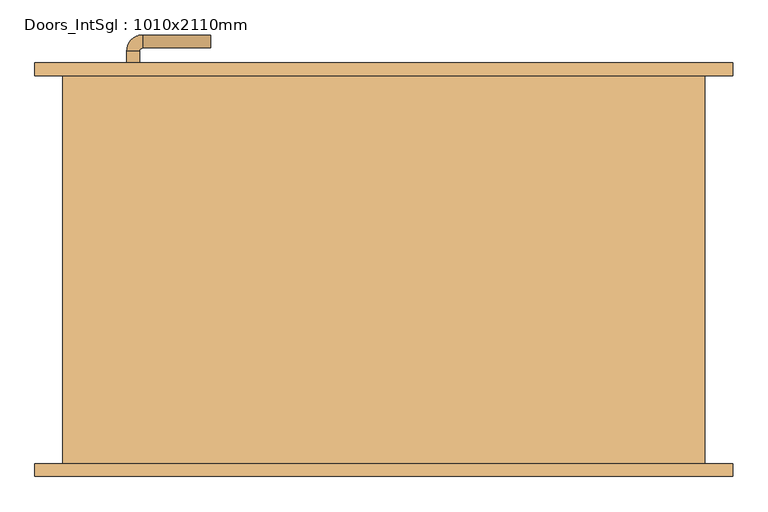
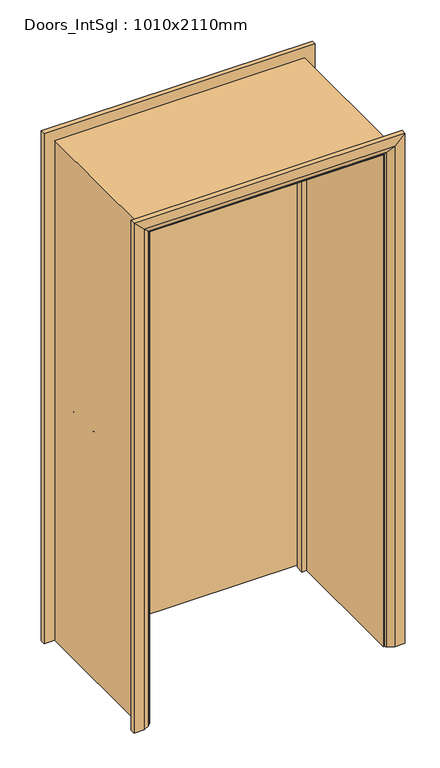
"""IFC4 building model written with IfcOpenShell, lengths in millimetres: door geometry, Doors_IntSgl : 1010x2110mm."""

from ifc_helpers import new_model, si_unit, point, frame, frame_2d, origin, place, context, project, spatial, polyline, circle_curve, ellipse_curve, trimmed, segment, composite_curve, outline, extrude, faceted_brep, source, transform, mapped, element, save
from ifc_brep_helpers import plane_surface, cylinder_surface, revolved_surface, advanced_brep


def doors_intsgl_1010x2110mm_08e46b23(model_context):
    return source(origin(), model_context, "Body", "SolidModel", [
        advanced_brep(
        [(-398.0, 254.0, 900.0), (-378.0, 254.0, 900.0), (-378.0, 224.0, 900.0), (-398.0, 224.0, 900.0), (-373.0, 219.0, 900.0), (-373.0, 199.0, 900.0), (-268.0, 199.0, 900.0), (-268.0, 219.0, 900.0)],
        [
            (0, 1, circle_curve(frame((-388.0, 254.0, 900.0), z_axis=(0.0, 1.0, 0.0), x_axis=(1.0, 0.0, 0.0)), 10.0)),
            (1, 0, circle_curve(frame((-388.0, 254.0, 900.0), z_axis=(0.0, 1.0, 0.0), x_axis=(1.0, 0.0, 0.0)), 10.0)),
            (1, 2),
            (2, 3, circle_curve(frame((-388.0, 224.0, 900.0), z_axis=(0.0, 1.0, 0.0), x_axis=(1.0, 0.0, 0.0)), 10.0)),
            (3, 0),
            (3, 2, circle_curve(frame((-388.0, 224.0, 900.0), z_axis=(0.0, 1.0, 0.0), x_axis=(1.0, 0.0, 0.0)), 10.0)),
            (4, 5, circle_curve(frame((-373.0, 209.0, 900.0), z_axis=(-1.0, 0.0, 0.0), x_axis=(0.0, 1.0, 0.0)), 10.0)),
            (5, 3, circle_curve(frame((-373.0, 224.0, 900.0), z_axis=(0.0, 0.0, -1.0), x_axis=(-1.0, 0.0, 0.0)), 25.0)),
            (2, 4, circle_curve(frame((-373.0, 224.0, 900.0), z_axis=(0.0, 0.0, 1.0), x_axis=(-1.0, 0.0, 0.0)), 5.0)),
            (5, 4, circle_curve(frame((-373.0, 209.0, 900.0), z_axis=(-1.0, 0.0, 0.0), x_axis=(0.0, 1.0, 0.0)), 10.0)),
            (6, 7, circle_curve(frame((-268.0, 209.0, 900.0), z_axis=(1.0, 0.0, 0.0), x_axis=(0.0, 1.0, 0.0)), 10.0)),
            (7, 6, circle_curve(frame((-268.0, 209.0, 900.0), z_axis=(1.0, 0.0, 0.0), x_axis=(0.0, 1.0, 0.0)), 10.0)),
            (4, 7),
            (6, 5),
        ],
        [
            plane_surface(frame((-388.0, 254.0, 900.0), z_axis=(0.0, 1.0, 0.0), x_axis=(0.0, 0.0, 1.0))),
            cylinder_surface(frame((-388.0, 254.0, 900.0), z_axis=(0.0, 1.0, 0.0), x_axis=(1.0, 0.0, 0.0)), 10.0),
            revolved_surface(trimmed(ellipse_curve(frame((-388.0, 224.0, 900.0), z_axis=(0.0, -1.0, 0.0), x_axis=(1.0, 0.0, 0.0)), 10.0, 10.0), [point((-398.0, 224.0, 900.0))], [point((-378.0, 224.0, 900.0))], True, "CARTESIAN"), (-373.0, 224.0, 900.0), (0.0, 0.0, -1.0)),
            revolved_surface(trimmed(ellipse_curve(frame((-388.0, 224.0, 900.0), z_axis=(0.0, -1.0, 0.0), x_axis=(1.0, 0.0, 0.0)), 10.0, 10.0), [point((-378.0, 224.0, 900.0))], [point((-398.0, 224.0, 900.0))], True, "CARTESIAN"), (-373.0, 224.0, 900.0), (0.0, 0.0, -1.0)),
            plane_surface(frame((-268.0, 209.0, 900.0), z_axis=(1.0, 0.0, 0.0), x_axis=(0.0, 0.0, 1.0))),
            cylinder_surface(frame((-373.0, 209.0, 900.0), z_axis=(-1.0, 0.0, 0.0), x_axis=(0.0, 1.0, 0.0)), 10.0),
        ],
        [
            (0, [[1, 2]]),
            (1, [[3, 4, 5, -2]]),
            (1, [[-5, 6, -3, -1]]),
            (2, [[7, 8, -4, 9]]),
            (3, [[10, -9, -6, -8]]),
            (4, [[11, 12]]),
            (5, [[13, -11, 14, -7]]),
            (5, [[-14, -12, -13, -10]]),
        ],
    ),
        extrude(outline(composite_curve([segment(trimmed(circle_curve(frame_2d((900.0, -390.5)), 30.0), [point((900.0, -420.5))], [point((900.0, -360.5))], False, "CARTESIAN"), True, "CONTINUOUS"), segment(trimmed(circle_curve(frame_2d((900.0, -390.5)), 30.0), [point((900.0, -360.5))], [point((900.0, -420.5))], False, "CARTESIAN"), True, "CONTINUOUS")], self_intersect=False)), frame((0.0, 254.0, 0.0), z_axis=(0.0, 1.0, 0.0), x_axis=(0.0, 0.0, 1.0)), (0.0, 0.0, 1.0), 8.0),
        advanced_brep(
        [(-398.0, 308.0, 900.0), (-378.0, 308.0, 900.0), (-398.0, 338.0, 900.0), (-378.0, 338.0, 900.0), (-373.0, 343.0, 900.0), (-373.0, 363.0, 900.0), (-268.0, 363.0, 900.0), (-268.0, 343.0, 900.0)],
        [
            (0, 1, circle_curve(frame((-388.0, 308.0, 900.0), z_axis=(0.0, -1.0, 0.0), x_axis=(1.0, 0.0, 0.0)), 10.0)),
            (1, 0, circle_curve(frame((-388.0, 308.0, 900.0), z_axis=(0.0, -1.0, 0.0), x_axis=(1.0, 0.0, 0.0)), 10.0)),
            (0, 2),
            (2, 3, circle_curve(frame((-388.0, 338.0, 900.0), z_axis=(0.0, -1.0, 0.0), x_axis=(1.0, 0.0, 0.0)), 10.0)),
            (3, 1),
            (3, 2, circle_curve(frame((-388.0, 338.0, 900.0), z_axis=(0.0, -1.0, 0.0), x_axis=(1.0, 0.0, 0.0)), 10.0)),
            (4, 3, circle_curve(frame((-373.0, 338.0, 900.0), z_axis=(0.0, 0.0, 1.0), x_axis=(-1.0, 0.0, 0.0)), 5.0)),
            (2, 5, circle_curve(frame((-373.0, 338.0, 900.0), z_axis=(0.0, 0.0, -1.0), x_axis=(-1.0, 0.0, 0.0)), 25.0)),
            (5, 4, circle_curve(frame((-373.0, 353.0, 900.0), z_axis=(-1.0, 0.0, 0.0), x_axis=(0.0, -1.0, 0.0)), 10.0)),
            (4, 5, circle_curve(frame((-373.0, 353.0, 900.0), z_axis=(-1.0, 0.0, 0.0), x_axis=(0.0, -1.0, 0.0)), 10.0)),
            (6, 7, circle_curve(frame((-268.0, 353.0, 900.0), z_axis=(1.0, 0.0, 0.0), x_axis=(0.0, -1.0, 0.0)), 10.0)),
            (7, 6, circle_curve(frame((-268.0, 353.0, 900.0), z_axis=(1.0, 0.0, 0.0), x_axis=(0.0, -1.0, 0.0)), 10.0)),
            (5, 6),
            (7, 4),
        ],
        [
            plane_surface(frame((-388.0, 308.0, 900.0), z_axis=(0.0, -1.0, 0.0), x_axis=(0.0, 0.0, 1.0))),
            cylinder_surface(frame((-388.0, 308.0, 900.0), z_axis=(0.0, -1.0, 0.0), x_axis=(1.0, 0.0, 0.0)), 10.0),
            revolved_surface(trimmed(ellipse_curve(frame((-388.0, 338.0, 900.0), z_axis=(0.0, -1.0, 0.0), x_axis=(1.0, 0.0, 0.0)), 10.0, 10.0), [point((-398.0, 338.0, 900.0))], [point((-378.0, 338.0, 900.0))], True, "CARTESIAN"), (-373.0, 338.0, 900.0), (0.0, 0.0, -1.0)),
            revolved_surface(trimmed(ellipse_curve(frame((-388.0, 338.0, 900.0), z_axis=(0.0, -1.0, 0.0), x_axis=(1.0, 0.0, 0.0)), 10.0, 10.0), [point((-378.0, 338.0, 900.0))], [point((-398.0, 338.0, 900.0))], True, "CARTESIAN"), (-373.0, 338.0, 900.0), (0.0, 0.0, -1.0)),
            plane_surface(frame((-268.0, 353.0, 900.0), z_axis=(1.0, 0.0, 0.0), x_axis=(0.0, 0.0, 1.0))),
            cylinder_surface(frame((-373.0, 353.0, 900.0), z_axis=(-1.0, 0.0, 0.0), x_axis=(0.0, -1.0, 0.0)), 10.0),
        ],
        [
            (0, [[1, 2]]),
            (1, [[-1, 3, 4, 5]]),
            (1, [[-2, -5, 6, -3]]),
            (2, [[7, -4, 8, 9]]),
            (3, [[-8, -6, -7, 10]]),
            (4, [[11, 12]]),
            (5, [[-9, 13, -12, 14]]),
            (5, [[-10, -14, -11, -13]]),
        ],
    ),
        extrude(outline(composite_curve([segment(trimmed(circle_curve(frame_2d((900.0, -390.5)), 30.0), [point((900.0, -420.5))], [point((900.0, -360.5))], False, "CARTESIAN"), True, "CONTINUOUS"), segment(trimmed(circle_curve(frame_2d((900.0, -390.5)), 30.0), [point((900.0, -360.5))], [point((900.0, -420.5))], False, "CARTESIAN"), True, "CONTINUOUS")], self_intersect=False)), frame((0.0, 300.0, 0.0), z_axis=(0.0, 1.0, 0.0), x_axis=(0.0, 0.0, 1.0)), (0.0, 0.0, 1.0), 8.0),
        extrude(outline(polyline([(463.0, 262.0), (-463.0, 262.0), (-463.0, 300.0), (463.0, 300.0), (463.0, 262.0)])), frame((0.0, 0.0, 8.0), z_axis=(0.0, 0.0, 1.0), x_axis=(1.0, 0.0, 0.0)), (0.0, 0.0, 1.0), 2060.0),
        advanced_brep(
        [(540.0, 320.0, 0.0), (540.0, 300.0, 0.0), (470.0, 300.0, 0.0), (474.0, 306.0, 0.0), (500.0, 320.0, 0.0), (540.0, 320.0, 2145.0), (540.0, 300.0, 2145.0), (-540.0, 300.0, 2145.0), (-540.0, 300.0, 0.0), (-470.0, 300.0, 0.0), (-470.0, 300.0, 2075.0), (470.0, 300.0, 2075.0), (474.0, 306.0, 2079.0), (500.0, 320.0, 2105.0), (-500.0, 320.0, 2105.0), (-500.0, 320.0, 0.0), (-540.0, 320.0, 0.0), (-540.0, 320.0, 2145.0), (-474.0, 306.0, 2079.0), (-474.0, 306.0, 0.0)],
        [
            (0, 1),
            (1, 2),
            (2, 3, circle_curve(frame((478.0, 299.0, 0.0), z_axis=(0.0, 0.0, -1.0), x_axis=(1.0, 0.0, 0.0)), 8.0622577)),
            (3, 4),
            (4, 0),
            (0, 5),
            (5, 6),
            (6, 1),
            (6, 7),
            (7, 8),
            (8, 9),
            (9, 10),
            (10, 11),
            (11, 2),
            (11, 12, ellipse_curve(frame((478.0, 299.0, 2083.0), z_axis=(0.7071067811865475, 0.0, -0.7071067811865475), x_axis=(-0.7071067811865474, 0.0, -0.7071067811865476)), 11.4017543, 8.0622577)),
            (12, 3),
            (12, 13),
            (13, 4),
            (13, 14),
            (14, 15),
            (15, 16),
            (16, 17),
            (17, 5),
            (17, 7),
            (10, 18, ellipse_curve(frame((-478.0, 299.0, 2083.0), z_axis=(0.7071067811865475, 0.0, 0.7071067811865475), x_axis=(0.7071067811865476, 0.0, -0.7071067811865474)), 11.4017543, 8.0622577)),
            (18, 12),
            (18, 14),
            (15, 19),
            (19, 9, circle_curve(frame((-478.0, 299.0, 0.0), z_axis=(0.0, 0.0, -1.0), x_axis=(-1.0, 0.0, 0.0)), 8.0622577)),
            (8, 16),
            (19, 18),
        ],
        [
            plane_surface(frame((470.0, 300.0, 0.0), z_axis=(0.0, 0.0, -1.0), x_axis=(0.0, -1.0, 0.0))),
            plane_surface(frame((540.0, 320.0, 0.0), z_axis=(1.0, 0.0, 0.0), x_axis=(0.0, 0.0, 1.0))),
            plane_surface(frame((540.0, 300.0, 0.0), z_axis=(0.0, -1.0, 0.0), x_axis=(0.0, 0.0, 1.0))),
            cylinder_surface(frame((478.0, 299.0, 0.0), z_axis=(0.0, 0.0, -1.0), x_axis=(1.0, 0.0, 0.0)), 8.0622577),
            plane_surface(frame((474.0, 306.0, 0.0), z_axis=(-0.4740998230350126, 0.880471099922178, 0.0), x_axis=(0.0, 0.0, 1.0))),
            plane_surface(frame((500.0, 320.0, 0.0), z_axis=(0.0, 1.0, 0.0), x_axis=(0.0, 0.0, 1.0))),
            plane_surface(frame((540.0, 320.0, 2145.0), z_axis=(0.0, 0.0, 1.0), x_axis=(-1.0, 0.0, 0.0))),
            cylinder_surface(frame((470.0, 299.0, 2083.0), z_axis=(1.0, 0.0, 0.0), x_axis=(0.0, 0.0, 1.0)), 8.0622577),
            plane_surface(frame((474.0, 306.0, 2079.0), z_axis=(0.0, 0.8804710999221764, -0.4740998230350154), x_axis=(-1.0, 0.0, 0.0))),
            plane_surface(frame((-470.0, 300.0, 0.0), z_axis=(0.0, 0.0, -1.0), x_axis=(0.0, -1.0, 0.0))),
            plane_surface(frame((-540.0, 320.0, 2145.0), z_axis=(-1.0, 0.0, 0.0), x_axis=(0.0, 0.0, -1.0))),
            cylinder_surface(frame((-478.0, 299.0, 2075.0), z_axis=(0.0, 0.0, 1.0), x_axis=(-1.0, 0.0, 0.0)), 8.0622577),
            plane_surface(frame((-474.0, 306.0, 2079.0), z_axis=(0.47409982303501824, 0.8804710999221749, 0.0), x_axis=(0.0, 0.0, -1.0))),
        ],
        [
            (0, [[1, 2, 3, 4, 5]]),
            (1, [[-1, 6, 7, 8]]),
            (2, [[-2, -8, 9, 10, 11, 12, 13, 14]]),
            (3, [[-3, -14, 15, 16]]),
            (4, [[-4, -16, 17, 18]]),
            (5, [[-5, -18, 19, 20, 21, 22, 23, -6]]),
            (6, [[-7, -23, 24, -9]]),
            (7, [[-15, -13, 25, 26]]),
            (8, [[-17, -26, 27, -19]]),
            (9, [[-21, 28, 29, -11, 30]]),
            (10, [[-24, -22, -30, -10]]),
            (11, [[-25, -12, -29, 31]]),
            (12, [[-27, -31, -28, -20]]),
        ],
    ),
        extrude(outline(polyline([(0.0, -465.0), (0.0, -446.0), (2051.0, -446.0), (2051.0, 446.0), (0.0, 446.0), (0.0, 465.0), (2070.0, 465.0), (2070.0, -465.0), (0.0, -465.0)])), frame((0.0, 228.0, 0.0), z_axis=(0.0, 1.0, 0.0), x_axis=(0.0, 0.0, 1.0)), (0.0, 0.0, 1.0), 32.0),
        advanced_brep(
        [(-540.0, -320.0, 0.0), (-540.0, -300.0, 0.0), (-470.0, -300.0, 0.0), (-474.0, -306.0, 0.0), (-500.0, -320.0, 0.0), (-540.0, -320.0, 2145.0), (-540.0, -300.0, 2145.0), (-470.0, -300.0, 2075.0), (-474.0, -306.0, 2079.0), (-500.0, -320.0, 2105.0), (540.0, -320.0, 2145.0), (540.0, -300.0, 2145.0), (470.0, -300.0, 2075.0), (474.0, -306.0, 2079.0), (500.0, -320.0, 2105.0), (540.0, -320.0, 0.0), (500.0, -320.0, 0.0), (474.0, -306.0, 0.0), (470.0, -300.0, 0.0), (540.0, -300.0, 0.0)],
        [
            (0, 1),
            (1, 2),
            (2, 3, circle_curve(frame((-478.0, -299.0, 0.0), z_axis=(0.0, 0.0, -1.0), x_axis=(-1.0, 0.0, 0.0)), 8.0622577)),
            (3, 4),
            (4, 0),
            (0, 5),
            (5, 6),
            (6, 1),
            (6, 7),
            (7, 2),
            (7, 8, ellipse_curve(frame((-478.0, -299.0, 2083.0), z_axis=(-0.7071067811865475, 0.0, -0.7071067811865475), x_axis=(0.7071067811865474, 0.0, -0.7071067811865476)), 11.4017543, 8.0622577)),
            (8, 3),
            (8, 9),
            (9, 4),
            (9, 5),
            (5, 10),
            (10, 11),
            (11, 6),
            (11, 12),
            (12, 7),
            (12, 13, ellipse_curve(frame((478.0, -299.0, 2083.0), z_axis=(-0.7071067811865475, 0.0, 0.7071067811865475), x_axis=(-0.7071067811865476, 0.0, -0.7071067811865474)), 11.4017543, 8.0622577)),
            (13, 8),
            (13, 14),
            (14, 9),
            (14, 10),
            (15, 16),
            (16, 17),
            (17, 18, circle_curve(frame((478.0, -299.0, 0.0), z_axis=(0.0, 0.0, -1.0), x_axis=(1.0, 0.0, 0.0)), 8.0622577)),
            (18, 19),
            (19, 15),
            (10, 15),
            (19, 11),
            (18, 12),
            (17, 13),
            (16, 14),
        ],
        [
            plane_surface(frame((-470.0, -372.8010989, 0.0), z_axis=(0.0, 0.0, -1.0), x_axis=(1.0, 0.0, 0.0))),
            plane_surface(frame((-540.0, -320.0, 0.0), z_axis=(-1.0, 0.0, 0.0), x_axis=(0.0, 0.0, 1.0))),
            plane_surface(frame((-540.0, -300.0, 0.0), z_axis=(0.0, 1.0, 0.0), x_axis=(0.0, 0.0, 1.0))),
            cylinder_surface(frame((-478.0, -299.0, 0.0), z_axis=(0.0, 0.0, -1.0), x_axis=(-1.0, 0.0, 0.0)), 8.0622577),
            plane_surface(frame((-474.0, -306.0, 0.0), z_axis=(0.4740998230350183, -0.8804710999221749, 0.0), x_axis=(0.0, 0.0, 1.0))),
            plane_surface(frame((-500.0, -320.0, 0.0), z_axis=(0.0, -1.0, 0.0), x_axis=(0.0, 0.0, 1.0))),
            plane_surface(frame((-540.0, -320.0, 2145.0), z_axis=(0.0, 0.0, 1.0), x_axis=(1.0, 0.0, 0.0))),
            plane_surface(frame((-540.0, -300.0, 2145.0), z_axis=(0.0, 1.0, 0.0), x_axis=(1.0, 0.0, 0.0))),
            cylinder_surface(frame((-470.0, -299.0, 2083.0), z_axis=(-1.0, 0.0, 0.0), x_axis=(0.0, 0.0, 1.0)), 8.0622577),
            plane_surface(frame((-474.0, -306.0, 2079.0), z_axis=(0.0, -0.8804710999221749, -0.4740998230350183), x_axis=(1.0, 0.0, 0.0))),
            plane_surface(frame((-500.0, -320.0, 2105.0), z_axis=(0.0, -1.0, 0.0), x_axis=(1.0, 0.0, 0.0))),
            plane_surface(frame((470.0, -372.8010989, 0.0), z_axis=(0.0, 0.0, -1.0), x_axis=(-1.0, 0.0, 0.0))),
            plane_surface(frame((540.0, -320.0, 2145.0), z_axis=(1.0, 0.0, 0.0), x_axis=(0.0, 0.0, -1.0))),
            plane_surface(frame((540.0, -300.0, 2145.0), z_axis=(0.0, 1.0, 0.0), x_axis=(0.0, 0.0, -1.0))),
            cylinder_surface(frame((478.0, -299.0, 2075.0), z_axis=(0.0, 0.0, 1.0), x_axis=(1.0, 0.0, 0.0)), 8.0622577),
            plane_surface(frame((474.0, -306.0, 2079.0), z_axis=(-0.4740998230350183, -0.8804710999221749, 0.0), x_axis=(0.0, 0.0, -1.0))),
            plane_surface(frame((500.0, -320.0, 2105.0), z_axis=(0.0, -1.0, 0.0), x_axis=(0.0, 0.0, -1.0))),
        ],
        [
            (0, [[1, 2, 3, 4, 5]]),
            (1, [[-1, 6, 7, 8]]),
            (2, [[-2, -8, 9, 10]]),
            (3, [[-3, -10, 11, 12]]),
            (4, [[-4, -12, 13, 14]]),
            (5, [[-5, -14, 15, -6]]),
            (6, [[-7, 16, 17, 18]]),
            (7, [[-9, -18, 19, 20]]),
            (8, [[-11, -20, 21, 22]]),
            (9, [[-13, -22, 23, 24]]),
            (10, [[-15, -24, 25, -16]]),
            (11, [[26, 27, 28, 29, 30]]),
            (12, [[-17, 31, -30, 32]]),
            (13, [[-19, -32, -29, 33]]),
            (14, [[-21, -33, -28, 34]]),
            (15, [[-23, -34, -27, 35]]),
            (16, [[-25, -35, -26, -31]]),
        ],
    ),
        faceted_brep([(-465.0, 300.0, 0.0), (-465.0, -300.0, 0.0), (-497.0, -300.0, 0.0), (-497.0, 300.0, 0.0), (-465.0, 300.0, 2070.0), (-465.0, -300.0, 2070.0), (-497.0, -300.0, 2102.0), (-497.0, 300.0, 2102.0), (465.0, 300.0, 2070.0), (465.0, -300.0, 2070.0), (497.0, -300.0, 2102.0), (497.0, 300.0, 2102.0), (465.0, 300.0, 0.0), (497.0, 300.0, 0.0), (497.0, -300.0, 0.0), (465.0, -300.0, 0.0)], [[[0, 1, 2, 3]], [[1, 0, 4, 5]], [[2, 1, 5, 6]], [[3, 2, 6, 7]], [[0, 3, 7, 4]], [[5, 4, 8, 9]], [[6, 5, 9, 10]], [[7, 6, 10, 11]], [[4, 7, 11, 8]], [[12, 13, 14, 15]], [[9, 8, 12, 15]], [[10, 9, 15, 14]], [[11, 10, 14, 13]], [[8, 11, 13, 12]]]),
    ])


if __name__ == "__main__":
    model = new_model("IFC4")
    model_context = context("Model", 3, world=origin())
    ifc_project = project(units=[si_unit("LENGTHUNIT", "METRE", prefix="MILLI")], contexts=[model_context])
    site = spatial("IfcSite", under=ifc_project)
    building = spatial("IfcBuilding", under=site)
    placement = place(None, origin())
    doors_intsgl_1010x2110mm_shape = doors_intsgl_1010x2110mm_08e46b23(model_context)
    element("IfcDoor", 1, ObjectType="Doors_IntSgl : 1010x2110mm", at=placement, inside=building, context=model_context, shape_type="MappedRepresentation", body=[
        mapped(doors_intsgl_1010x2110mm_shape, transform((0.0, 0.0, 0.0), x_axis=(1.0, 0.0, 0.0), y_axis=(0.0, 1.0, 0.0), z_axis=(0.0, 0.0, 1.0))),
    ])
    save(model, "model.ifc")
